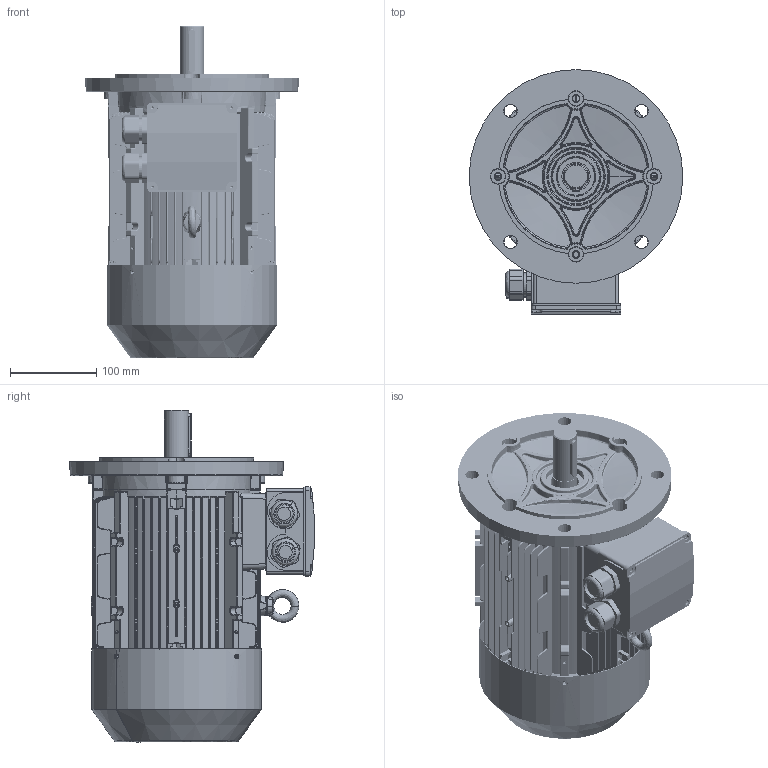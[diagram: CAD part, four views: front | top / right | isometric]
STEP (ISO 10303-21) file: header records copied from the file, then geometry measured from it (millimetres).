
FILE_DESCRIPTION (( 'STEP AP214' ), '1' );
FILE_NAME ('MX3-100L_B5.STEP', '2017-12-20T12:30:46', ( '' ), ( '' ), 'SwSTEP 2.0', 'SolidWorks 2012', '' );
FILE_SCHEMA (( 'AUTOMOTIVE_DESIGN' ));
Length unit declared in the file: millimetre
Products named in the file (12): IE3 100 B5 flange; IE3 100 shaft cover; plain parallel keys_GB_CONNECTING_PIECE_KEYS_CSK 8X50; IE3 100 fan cover; IE3 100 fan; IE3 100 terminal box cover; IE3 100 terminal box base; eyebolts gb_GB_FASTENER_SCREWS_FRS M8-N; IE3 100 Shaft; IE3 100 B3 Shield; IE3 100 casing; MX3-100L_B5
Assembly tree (12 placements, depth 2):
  MX3-100L_B5
    IE3 100 casing
    IE3 100 B3 Shield
    IE3 100 Shaft
    eyebolts gb_GB_FASTENER_SCREWS_FRS M8-N
    IE3 100 terminal box base
    IE3 100 terminal box cover
    IE3 100 fan
    IE3 100 fan cover
    plain parallel keys_GB_CONNECTING_PIECE_KEYS_CSK 8X50
    IE3 100 shaft cover  x2
    IE3 100 B5 flange
Bounding box: 248.08 x 284.04 x 385.51 mm (x, y, z)
Volume: 2027831.1 mm3; surface area: 1088013.9 mm2
Topology: 13 solids, 15 shells, 4894 faces, 12556 edges, 7622 vertices
Faces by surface type: bspline 1552, plane 1408, cylinder 1180, cone 354, torus 308, sphere 92
Entity records: 203748 total; most frequent: CARTESIAN_POINT 98324, ORIENTED_EDGE 24478, DIRECTION 18387, EDGE_CURVE 12239, VERTEX_POINT 7514, AXIS2_PLACEMENT_3D 6769, EDGE_LOOP 5245, LINE 4849
